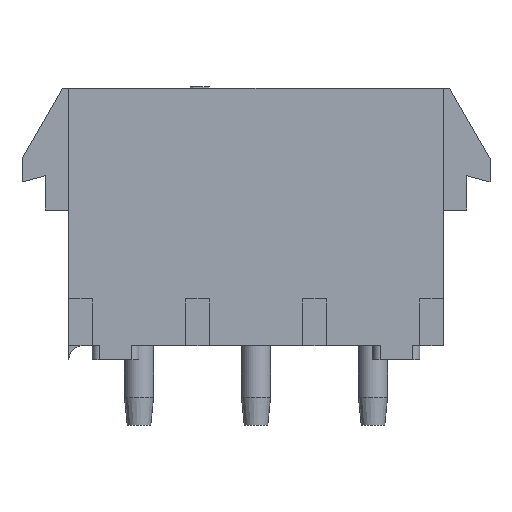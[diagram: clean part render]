
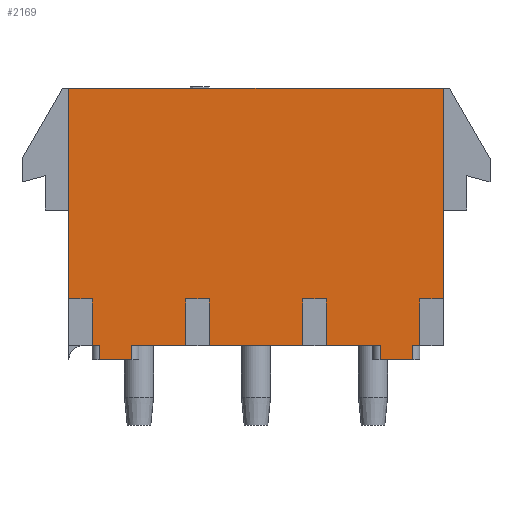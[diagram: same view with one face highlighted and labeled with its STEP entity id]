
A CAD part, front view. The second image highlights one B-rep face of the part: STEP entity #2169.
In plain terms, the highlighted planar face has unit normal (0, -1, 0).
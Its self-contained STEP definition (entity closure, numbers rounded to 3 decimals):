
#159=DIRECTION('',(1.,0.,0.));
#160=VECTOR('',#159,20.32);
#161=CARTESIAN_POINT('',(-10.16,-3.81,0.));
#162=LINE('',#161,#160);
#271=DIRECTION('',(1.,0.,0.));
#272=VECTOR('',#271,0.381);
#273=CARTESIAN_POINT('',(-8.89,-3.81,-13.97));
#274=LINE('',#273,#272);
#289=DIRECTION('',(1.,0.,0.));
#290=VECTOR('',#289,2.921);
#291=CARTESIAN_POINT('',(-6.731,-3.81,-13.97));
#292=LINE('',#291,#290);
#297=DIRECTION('',(1.,0.,0.));
#298=VECTOR('',#297,5.08);
#299=CARTESIAN_POINT('',(-2.54,-3.81,-13.97));
#300=LINE('',#299,#298);
#305=DIRECTION('',(1.,0.,0.));
#306=VECTOR('',#305,2.921);
#307=CARTESIAN_POINT('',(3.81,-3.81,-13.97));
#308=LINE('',#307,#306);
#323=DIRECTION('',(1.,0.,0.));
#324=VECTOR('',#323,0.381);
#325=CARTESIAN_POINT('',(8.509,-3.81,-13.97));
#326=LINE('',#325,#324);
#491=DIRECTION('',(0.,0.,1.));
#492=VECTOR('',#491,2.54);
#493=CARTESIAN_POINT('',(8.89,-3.81,-13.97));
#494=LINE('',#493,#492);
#495=DIRECTION('',(0.,0.,-1.));
#496=VECTOR('',#495,0.762);
#497=CARTESIAN_POINT('',(8.509,-3.81,-13.97));
#498=LINE('',#497,#496);
#499=DIRECTION('',(0.,0.,-1.));
#500=VECTOR('',#499,2.54);
#501=CARTESIAN_POINT('',(3.81,-3.81,-11.43));
#502=LINE('',#501,#500);
#503=DIRECTION('',(1.,0.,0.));
#504=VECTOR('',#503,1.27);
#505=CARTESIAN_POINT('',(2.54,-3.81,-11.43));
#506=LINE('',#505,#504);
#507=DIRECTION('',(0.,0.,1.));
#508=VECTOR('',#507,2.54);
#509=CARTESIAN_POINT('',(2.54,-3.81,-13.97));
#510=LINE('',#509,#508);
#511=DIRECTION('',(0.,0.,-1.));
#512=VECTOR('',#511,2.54);
#513=CARTESIAN_POINT('',(-2.54,-3.81,-11.43));
#514=LINE('',#513,#512);
#515=DIRECTION('',(1.,0.,0.));
#516=VECTOR('',#515,1.27);
#517=CARTESIAN_POINT('',(-3.81,-3.81,-11.43));
#518=LINE('',#517,#516);
#519=DIRECTION('',(0.,0.,1.));
#520=VECTOR('',#519,2.54);
#521=CARTESIAN_POINT('',(-3.81,-3.81,-13.97));
#522=LINE('',#521,#520);
#523=DIRECTION('',(0.,0.,-1.));
#524=VECTOR('',#523,0.762);
#525=CARTESIAN_POINT('',(-6.731,-3.81,-13.97));
#526=LINE('',#525,#524);
#527=DIRECTION('',(0.,0.,-1.));
#528=VECTOR('',#527,2.54);
#529=CARTESIAN_POINT('',(-8.89,-3.81,-11.43));
#530=LINE('',#529,#528);
#531=DIRECTION('',(1.,0.,0.));
#532=VECTOR('',#531,1.27);
#533=CARTESIAN_POINT('',(-10.16,-3.81,-11.43));
#534=LINE('',#533,#532);
#535=DIRECTION('',(0.,0.,-1.));
#536=VECTOR('',#535,11.43);
#537=CARTESIAN_POINT('',(-10.16,-3.81,0.));
#538=LINE('',#537,#536);
#539=DIRECTION('',(-1.,0.,0.));
#540=VECTOR('',#539,1.27);
#541=CARTESIAN_POINT('',(10.16,-3.81,-11.43));
#542=LINE('',#541,#540);
#551=DIRECTION('',(0.,0.,-1.));
#552=VECTOR('',#551,0.762);
#553=CARTESIAN_POINT('',(6.731,-3.81,-13.97));
#554=LINE('',#553,#552);
#573=DIRECTION('',(-1.,0.,0.));
#574=VECTOR('',#573,1.778);
#575=CARTESIAN_POINT('',(8.509,-3.81,-14.732));
#576=LINE('',#575,#574);
#614=DIRECTION('',(-1.,0.,0.));
#615=VECTOR('',#614,1.778);
#616=CARTESIAN_POINT('',(-6.731,-3.81,-14.732));
#617=LINE('',#616,#615);
#671=DIRECTION('',(0.,0.,-1.));
#672=VECTOR('',#671,11.43);
#673=CARTESIAN_POINT('',(10.16,-3.81,0.));
#674=LINE('',#673,#672);
#823=DIRECTION('',(0.,0.,-1.));
#824=VECTOR('',#823,0.762);
#825=CARTESIAN_POINT('',(-8.509,-3.81,-13.97));
#826=LINE('',#825,#824);
#1421=CARTESIAN_POINT('',(-10.16,-3.81,0.));
#1422=CARTESIAN_POINT('',(10.16,-3.81,0.));
#1423=VERTEX_POINT('',#1421);
#1424=VERTEX_POINT('',#1422);
#1517=CARTESIAN_POINT('',(8.509,-3.81,-14.732));
#1518=CARTESIAN_POINT('',(6.731,-3.81,-14.732));
#1519=VERTEX_POINT('',#1517);
#1520=VERTEX_POINT('',#1518);
#1533=CARTESIAN_POINT('',(-8.509,-3.81,-14.732));
#1535=VERTEX_POINT('',#1533);
#1539=CARTESIAN_POINT('',(-6.731,-3.81,-14.732));
#1540=VERTEX_POINT('',#1539);
#1549=CARTESIAN_POINT('',(6.731,-3.81,-13.97));
#1551=VERTEX_POINT('',#1549);
#1555=CARTESIAN_POINT('',(8.509,-3.81,-13.97));
#1556=VERTEX_POINT('',#1555);
#1565=CARTESIAN_POINT('',(-8.509,-3.81,-13.97));
#1567=VERTEX_POINT('',#1565);
#1571=CARTESIAN_POINT('',(-6.731,-3.81,-13.97));
#1572=VERTEX_POINT('',#1571);
#1625=CARTESIAN_POINT('',(8.89,-3.81,-13.97));
#1626=VERTEX_POINT('',#1625);
#1627=CARTESIAN_POINT('',(8.89,-3.81,-11.43));
#1628=VERTEX_POINT('',#1627);
#1629=CARTESIAN_POINT('',(10.16,-3.81,-11.43));
#1630=VERTEX_POINT('',#1629);
#1631=CARTESIAN_POINT('',(3.81,-3.81,-13.97));
#1632=VERTEX_POINT('',#1631);
#1633=CARTESIAN_POINT('',(2.54,-3.81,-13.97));
#1634=VERTEX_POINT('',#1633);
#1635=CARTESIAN_POINT('',(2.54,-3.81,-11.43));
#1636=VERTEX_POINT('',#1635);
#1637=CARTESIAN_POINT('',(3.81,-3.81,-11.43));
#1638=VERTEX_POINT('',#1637);
#1639=CARTESIAN_POINT('',(-10.16,-3.81,-11.43));
#1640=VERTEX_POINT('',#1639);
#1641=CARTESIAN_POINT('',(-8.89,-3.81,-11.43));
#1642=VERTEX_POINT('',#1641);
#1643=CARTESIAN_POINT('',(-8.89,-3.81,-13.97));
#1644=VERTEX_POINT('',#1643);
#1645=CARTESIAN_POINT('',(-3.81,-3.81,-13.97));
#1646=VERTEX_POINT('',#1645);
#1647=CARTESIAN_POINT('',(-3.81,-3.81,-11.43));
#1648=VERTEX_POINT('',#1647);
#1649=CARTESIAN_POINT('',(-2.54,-3.81,-11.43));
#1650=VERTEX_POINT('',#1649);
#1651=CARTESIAN_POINT('',(-2.54,-3.81,-13.97));
#1652=VERTEX_POINT('',#1651);
#2122=CARTESIAN_POINT('',(-10.16,-3.81,0.));
#2123=DIRECTION('',(0.,-1.,0.));
#2124=DIRECTION('',(1.,0.,0.));
#2125=AXIS2_PLACEMENT_3D('',#2122,#2123,#2124);
#2126=PLANE('',#2125);
#2127=ORIENTED_EDGE('',*,*,#2114,.F.);
#2128=ORIENTED_EDGE('',*,*,#1961,.F.);
#2130=ORIENTED_EDGE('',*,*,#2129,.T.);
#2132=ORIENTED_EDGE('',*,*,#2131,.T.);
#2134=ORIENTED_EDGE('',*,*,#2133,.F.);
#2135=ORIENTED_EDGE('',*,*,#1953,.F.);
#2137=ORIENTED_EDGE('',*,*,#2136,.F.);
#2139=ORIENTED_EDGE('',*,*,#2138,.F.);
#2141=ORIENTED_EDGE('',*,*,#2140,.F.);
#2142=ORIENTED_EDGE('',*,*,#1945,.F.);
#2144=ORIENTED_EDGE('',*,*,#2143,.F.);
#2146=ORIENTED_EDGE('',*,*,#2145,.F.);
#2148=ORIENTED_EDGE('',*,*,#2147,.F.);
#2149=ORIENTED_EDGE('',*,*,#1937,.F.);
#2151=ORIENTED_EDGE('',*,*,#2150,.T.);
#2153=ORIENTED_EDGE('',*,*,#2152,.T.);
#2155=ORIENTED_EDGE('',*,*,#2154,.F.);
#2156=ORIENTED_EDGE('',*,*,#1929,.F.);
#2158=ORIENTED_EDGE('',*,*,#2157,.F.);
#2160=ORIENTED_EDGE('',*,*,#2159,.F.);
#2161=ORIENTED_EDGE('',*,*,#1908,.F.);
#2162=ORIENTED_EDGE('',*,*,#1836,.T.);
#2164=ORIENTED_EDGE('',*,*,#2163,.T.);
#2166=ORIENTED_EDGE('',*,*,#2165,.T.);
#2167=EDGE_LOOP('',(#2127,#2128,#2130,#2132,#2134,#2135,#2137,#2139,#2141,#2142,
#2144,#2146,#2148,#2149,#2151,#2153,#2155,#2156,#2158,#2160,#2161,#2162,#2164,
#2166));
#2168=FACE_OUTER_BOUND('',#2167,.F.);
#1836=EDGE_CURVE('',#1423,#1424,#162,.T.);
#1908=EDGE_CURVE('',#1423,#1640,#538,.T.);
#1929=EDGE_CURVE('',#1644,#1567,#274,.T.);
#1937=EDGE_CURVE('',#1572,#1646,#292,.T.);
#1945=EDGE_CURVE('',#1652,#1634,#300,.T.);
#1953=EDGE_CURVE('',#1632,#1551,#308,.T.);
#1961=EDGE_CURVE('',#1556,#1626,#326,.T.);
#2114=EDGE_CURVE('',#1626,#1628,#494,.T.);
#2129=EDGE_CURVE('',#1556,#1519,#498,.T.);
#2131=EDGE_CURVE('',#1519,#1520,#576,.T.);
#2133=EDGE_CURVE('',#1551,#1520,#554,.T.);
#2136=EDGE_CURVE('',#1638,#1632,#502,.T.);
#2138=EDGE_CURVE('',#1636,#1638,#506,.T.);
#2140=EDGE_CURVE('',#1634,#1636,#510,.T.);
#2143=EDGE_CURVE('',#1650,#1652,#514,.T.);
#2145=EDGE_CURVE('',#1648,#1650,#518,.T.);
#2147=EDGE_CURVE('',#1646,#1648,#522,.T.);
#2150=EDGE_CURVE('',#1572,#1540,#526,.T.);
#2152=EDGE_CURVE('',#1540,#1535,#617,.T.);
#2154=EDGE_CURVE('',#1567,#1535,#826,.T.);
#2157=EDGE_CURVE('',#1642,#1644,#530,.T.);
#2159=EDGE_CURVE('',#1640,#1642,#534,.T.);
#2163=EDGE_CURVE('',#1424,#1630,#674,.T.);
#2165=EDGE_CURVE('',#1630,#1628,#542,.T.);
#2169=ADVANCED_FACE('',(#2168),#2126,.T.);
